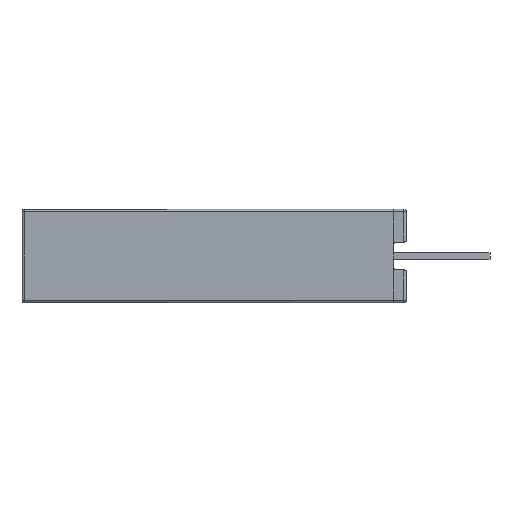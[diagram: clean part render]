
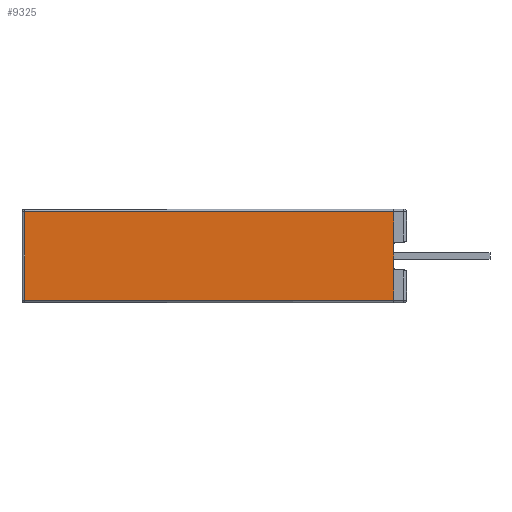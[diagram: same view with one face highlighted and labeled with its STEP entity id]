
A CAD part, left-side view. The second image highlights one B-rep face of the part: STEP entity #9325.
In plain terms, the highlighted planar face has unit normal (-1, 0, 0).
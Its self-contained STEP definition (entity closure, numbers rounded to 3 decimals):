
#3366 = CARTESIAN_POINT ( 'NONE',  ( -5., 0., -0.45 ) ) ;
#3367 = CARTESIAN_POINT ( 'NONE',  ( -5., 0., 0.45 ) ) ;
#3495 = DIRECTION ( 'NONE',  ( 0., 0., 1. ) ) ;
#3496 = VECTOR ( 'NONE', #3495, 1000. ) ;
#3497 = CARTESIAN_POINT ( 'NONE',  ( -5., 0., 1.85 ) ) ;
#3498 = LINE ( 'NONE', #3497, #3496 ) ;
#9307 = ORIENTED_EDGE ( 'NONE', *, *, #12724, .T. ) ;
#9308 = ORIENTED_EDGE ( 'NONE', *, *, #9309, .F. ) ;
#9309 = EDGE_CURVE ( 'NONE', #9310, #12656, #35414, .T. ) ;
#9310 = VERTEX_POINT ( 'NONE', #35410 ) ;
#9311 = ORIENTED_EDGE ( 'NONE', *, *, #9312, .T. ) ;
#9312 = EDGE_CURVE ( 'NONE', #9310, #9329, #35408, .T. ) ;
#9325 = ADVANCED_FACE ( 'NONE', ( #35480 ), #35465, .T. ) ;
#9326 = EDGE_LOOP ( 'NONE', ( #9327, #9331, #9334, #9307, #9308, #9311 ) ) ;
#9327 = ORIENTED_EDGE ( 'NONE', *, *, #9328, .T. ) ;
#9328 = EDGE_CURVE ( 'NONE', #9329, #9330, #35521, .T. ) ;
#9329 = VERTEX_POINT ( 'NONE', #35514 ) ;
#9330 = VERTEX_POINT ( 'NONE', #35513 ) ;
#9331 = ORIENTED_EDGE ( 'NONE', *, *, #9332, .T. ) ;
#9332 = EDGE_CURVE ( 'NONE', #9330, #9333, #35512, .T. ) ;
#9333 = VERTEX_POINT ( 'NONE', #35508 ) ;
#9334 = ORIENTED_EDGE ( 'NONE', *, *, #9392, .T. ) ;
#9392 = EDGE_CURVE ( 'NONE', #9333, #12658, #35636, .T. ) ;
#12656 = VERTEX_POINT ( 'NONE', #3367 ) ;
#12658 = VERTEX_POINT ( 'NONE', #3366 ) ;
#12724 = EDGE_CURVE ( 'NONE', #12658, #12656, #3498, .T. ) ;
#35405 = DIRECTION ( 'NONE',  ( 0., 1., 0. ) ) ;
#35406 = VECTOR ( 'NONE', #35405, 1000. ) ;
#35407 = CARTESIAN_POINT ( 'NONE',  ( -5., 0., 1.75 ) ) ;
#35408 = LINE ( 'NONE', #35407, #35406 ) ;
#35410 = CARTESIAN_POINT ( 'NONE',  ( -5., 0., 1.75 ) ) ;
#35411 = DIRECTION ( 'NONE',  ( 0., 0., -1. ) ) ;
#35412 = VECTOR ( 'NONE', #35411, 1000. ) ;
#35413 = CARTESIAN_POINT ( 'NONE',  ( -5., 0., 1.85 ) ) ;
#35414 = LINE ( 'NONE', #35413, #35412 ) ;
#35464 = AXIS2_PLACEMENT_3D ( 'NONE', #35520, #35519, #35518 ) ;
#35465 = PLANE ( 'NONE',  #35464 ) ;
#35480 = FACE_OUTER_BOUND ( 'NONE', #9326, .T. ) ;
#35508 = CARTESIAN_POINT ( 'NONE',  ( -5., 0., -1.75 ) ) ;
#35509 = DIRECTION ( 'NONE',  ( 0., -1., 0. ) ) ;
#35510 = VECTOR ( 'NONE', #35509, 1000. ) ;
#35511 = CARTESIAN_POINT ( 'NONE',  ( -5., 0.001, -1.75 ) ) ;
#35512 = LINE ( 'NONE', #35511, #35510 ) ;
#35513 = CARTESIAN_POINT ( 'NONE',  ( -4.995, 14.592, -1.745 ) ) ;
#35514 = CARTESIAN_POINT ( 'NONE',  ( -4.995, 14.592, 1.745 ) ) ;
#35515 = DIRECTION ( 'NONE',  ( 0., 0., -1. ) ) ;
#35516 = VECTOR ( 'NONE', #35515, 1000. ) ;
#35517 = CARTESIAN_POINT ( 'NONE',  ( -4.995, 14.592, -1.845 ) ) ;
#35518 = DIRECTION ( 'NONE',  ( 0., -1., 0. ) ) ;
#35519 = DIRECTION ( 'NONE',  ( -1., 0., 0. ) ) ;
#35520 = CARTESIAN_POINT ( 'NONE',  ( -5., 0., 1.85 ) ) ;
#35521 = LINE ( 'NONE', #35517, #35516 ) ;
#35633 = DIRECTION ( 'NONE',  ( 0., 0., 1. ) ) ;
#35634 = VECTOR ( 'NONE', #35633, 1000. ) ;
#35635 = CARTESIAN_POINT ( 'NONE',  ( -5., 0., 1.85 ) ) ;
#35636 = LINE ( 'NONE', #35635, #35634 ) ;
